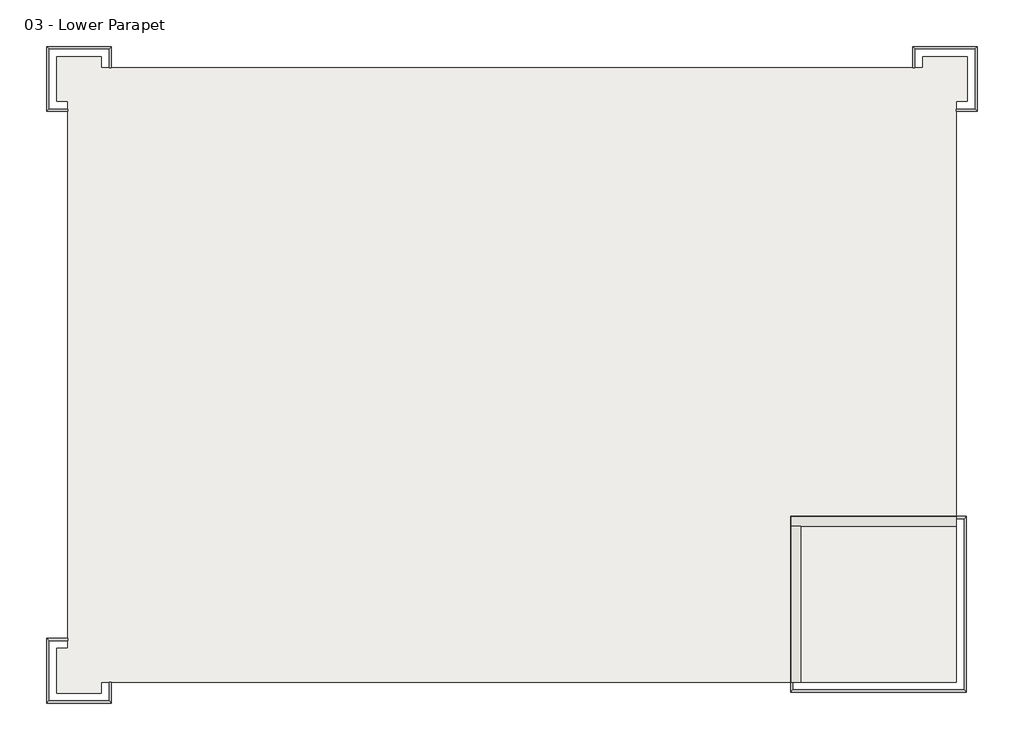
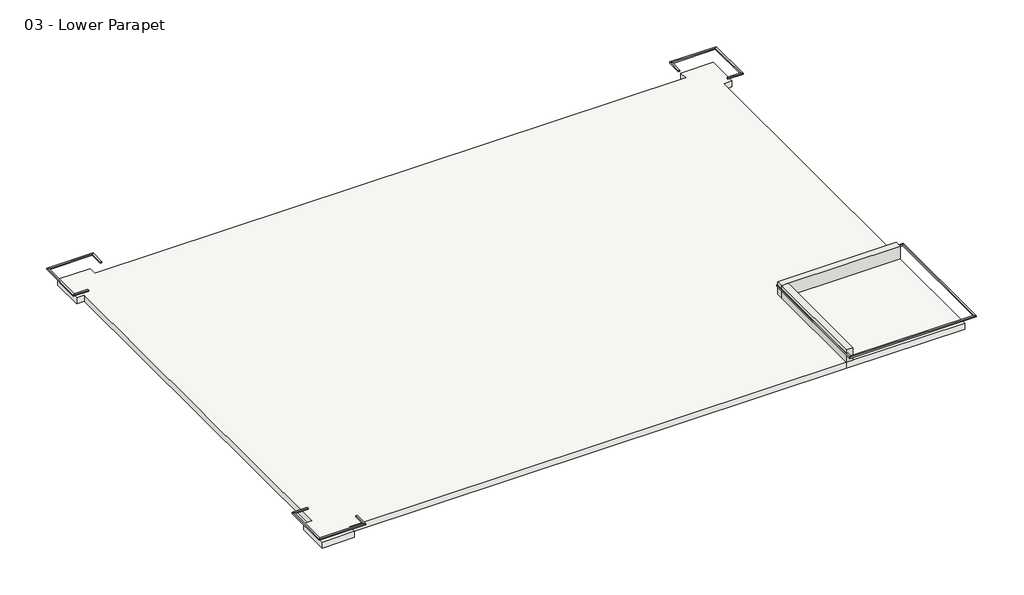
# One storey: 16 proxies, 2 walls, 1 roof.
"""IFC4 building model written with IfcOpenShell, lengths in millimetres."""

import ifcopenshell
import ifcopenshell.guid

model = None  # the IFC model being written
_history = None  # IfcOwnerHistory: only IFC2X3 demands one
_inside = {}  # id of a spatial element -> (the spatial element, [elements in it])
_under = {}  # id of a project, library or spatial element -> (it, [spatial elements below it])
_declared = {}  # id of a project -> (the project, [libraries it declares])
_typed = {}  # id of a type object -> (the type object, [elements of that type])
_made_of = {}  # id of a material, layer set ... -> (it, [elements and type objects made of it])


def new_model(schema):
    """Start an empty IFC model of exactly this schema.

    Asked for "IFC4X3", IfcOpenShell would pick the latest addendum, in which some entities
    have other attributes; the version numbers below select the first issue.
    IFC2X3 requires an IfcOwnerHistory on every rooted entity: one is made here for all.
    """
    global model, _history
    if schema == "IFC4X3":
        model = ifcopenshell.file(schema_version=(4, 3, 0, 0))
    else:
        model = ifcopenshell.file(schema=schema)
    _inside.clear()
    _under.clear()
    _declared.clear()
    _typed.clear()
    _made_of.clear()
    _history = None
    if model.schema == "IFC2X3":
        org = make("IfcOrganization", Name="unknown")
        user = make(
            "IfcPersonAndOrganization",
            ThePerson=make("IfcPerson", FamilyName="unknown"),
            TheOrganization=org,
        )
        app = make(
            "IfcApplication",
            ApplicationDeveloper=org,
            Version="unknown",
            ApplicationFullName="unknown",
            ApplicationIdentifier="unknown",
        )
        _history = make(
            "IfcOwnerHistory",
            OwningUser=user,
            OwningApplication=app,
            ChangeAction="ADDED",
            CreationDate=0,
        )
    return model


def make(cls, **values):
    """One entity of the class cls with the attributes given. An attribute that is None is left unset."""
    return model.create_entity(
        cls, **{name: value for name, value in values.items() if value is not None}
    )


def rooted(cls, **values):
    """An entity with a GlobalId (a new one), such as an element, a storey or a relation."""
    return make(cls, GlobalId=ifcopenshell.guid.new(), OwnerHistory=_history, **values)


def si_unit(unit_type, name, prefix=None):
    """IfcSIUnit, for example si_unit("LENGTHUNIT", "METRE", prefix="MILLI")."""
    return make("IfcSIUnit", UnitType=unit_type, Prefix=prefix, Name=name)


def assignment(units):
    """IfcUnitAssignment: the units of a project."""
    return None if units is None else make("IfcUnitAssignment", Units=units)


def point(xyz):
    """IfcCartesianPoint."""
    return None if xyz is None else make("IfcCartesianPoint", Coordinates=xyz)


def direction(xyz):
    """IfcDirection."""
    return None if xyz is None else make("IfcDirection", DirectionRatios=xyz)


def frame(location, z_axis=None, x_axis=None):
    """IfcAxis2Placement3D, a coordinate frame: its origin and axes. An axis left out is left unset."""
    return make(
        "IfcAxis2Placement3D",
        Location=point(location),
        Axis=direction(z_axis),
        RefDirection=direction(x_axis),
    )


def origin():
    """The frame at (0, 0, 0) with its axes left unset."""
    return frame((0.0, 0.0, 0.0))


def place(relative_to, where):
    """IfcLocalPlacement: puts the frame where relative to a parent placement (None: the world)."""
    return make(
        "IfcLocalPlacement", PlacementRelTo=relative_to, RelativePlacement=where
    )


def context(
    kind, dimensions, precision=None, world=None, true_north=None, identifier=None
):
    """IfcGeometricRepresentationContext, for example the 3D "Model" context."""
    return make(
        "IfcGeometricRepresentationContext",
        ContextIdentifier=identifier,
        ContextType=kind,
        CoordinateSpaceDimension=dimensions,
        Precision=precision,
        WorldCoordinateSystem=world,
        TrueNorth=true_north,
    )


def project(units=None, contexts=None):
    """IfcProject with its units and contexts."""
    return rooted(
        "IfcProject",
        Name="project",
        RepresentationContexts=contexts,
        UnitsInContext=assignment(units),
    )


def spatial(cls, under=None, at=None, **own):
    """A site, building, storey or space (cls), placed at a placement, below another one or the project."""
    s = rooted(cls, ObjectPlacement=at, **own)
    if under is not None:
        _under.setdefault(under.id(), (under, []))[1].append(s)
    return s


def polyline(points):
    """IfcPolyline through the points."""
    return make("IfcPolyline", Points=[point(p) for p in points])


def outline(outer, holes=None, kind="AREA"):
    """IfcArbitraryClosedProfileDef: a profile drawn as a closed curve; with holes, ...WithVoids."""
    if holes is None:
        return make("IfcArbitraryClosedProfileDef", ProfileType=kind, OuterCurve=outer)
    return make(
        "IfcArbitraryProfileDefWithVoids",
        ProfileType=kind,
        OuterCurve=outer,
        InnerCurves=holes,
    )


def extrude(swept, where, along, depth):
    """IfcExtrudedAreaSolid: the profile swept, set in the frame where, extruded along a direction by depth."""
    return make(
        "IfcExtrudedAreaSolid",
        SweptArea=swept,
        Position=where,
        ExtrudedDirection=direction(along),
        Depth=depth,
    )


def faces_of(points, faces, orient=None, outer=None):
    """IfcFace entities. A face is a list of loops; a loop is a list of indices into points, from 0.

    orient and outer hold one flag for each loop. By default every Orientation is true, the
    first loop of a face is its IfcFaceOuterBound and the others are IfcFaceBound.
    """
    made = []
    for i, loops in enumerate(faces):
        bounds = []
        for j, loop in enumerate(loops):
            is_outer = j == 0 if outer is None else outer[i][j]
            bounds.append(
                make(
                    "IfcFaceOuterBound" if is_outer else "IfcFaceBound",
                    Bound=make("IfcPolyLoop", Polygon=[points[k] for k in loop]),
                    Orientation=True if orient is None else orient[i][j],
                )
            )
        made.append(make("IfcFace", Bounds=bounds))
    return made


def faceted_brep(points, faces, orient=None, outer=None, voids=None):
    """IfcFacetedBrep: a solid bounded by flat faces; with voids (closed shells), ...WithVoids."""
    shared = [point(p) for p in points]
    hull = make("IfcClosedShell", CfsFaces=faces_of(shared, faces, orient, outer))
    if voids is None:
        return make("IfcFacetedBrep", Outer=hull)
    return make(
        "IfcFacetedBrepWithVoids",
        Outer=hull,
        Voids=[
            make(cls, CfsFaces=faces_of(shared, fs, o, b)) for cls, fs, o, b in voids
        ],
    )


def shape(context_of_items, identifier, shape_type, items):
    """IfcShapeRepresentation: the items that make up one representation, for example the "Body"."""
    return make(
        "IfcShapeRepresentation",
        ContextOfItems=context_of_items,
        RepresentationIdentifier=identifier,
        RepresentationType=shape_type,
        Items=items,
    )


def made_of(thing, what):
    """Note that an element or type object is made of a material, layer set ...; save() writes the relation."""
    if what is not None:
        _made_of.setdefault(what.id(), (what, []))[1].append(thing)
    return thing


def element(
    cls,
    number,
    at=None,
    inside=None,
    cuts=None,
    type_object=None,
    material=None,
    context=None,
    identifier="Body",
    shape_type=None,
    held_by="IfcProductDefinitionShape",
    body=None,
    shapes=None,
    **own,
):
    """One element of the class cls, such as IfcWall. Its Tag is "e" and its number.

    at: its placement. inside: the storey or other place that contains it. cuts: it is an
    opening in that element (IfcRelVoidsElement). A single representation is given by context,
    identifier, shape_type and body (its items); several are given by shapes. held_by: the class
    of the entity that holds the representations. save() writes the other relations.
    """
    e = rooted(cls, Tag="e%d" % number, ObjectPlacement=at, **own)
    if body is not None:
        shapes = [shape(context, identifier, shape_type, body)]
    if shapes is not None:
        e.Representation = make(held_by, Representations=shapes)
    if inside is not None:
        _inside.setdefault(inside.id(), (inside, []))[1].append(e)
    if cuts is not None:
        rooted(
            "IfcRelVoidsElement", RelatingBuildingElement=cuts, RelatedOpeningElement=e
        )
    if type_object is not None:
        _typed.setdefault(type_object.id(), (type_object, []))[1].append(e)
    return made_of(e, material)


def aggregate(whole, parts):
    """IfcRelAggregates: a whole, such as a stair, and the parts it consists of."""
    return rooted("IfcRelAggregates", RelatingObject=whole, RelatedObjects=parts)


def save(model, path):
    """Write the relations noted so far, then the file.

    IfcRelAggregates (storeys below a building ...), IfcRelContainedInSpatialStructure (elements
    in a storey), IfcRelDefinesByType, IfcRelAssociatesMaterial and IfcRelDeclares: one each for
    every whole, place, type object, material and project.
    """
    for whole, parts in _under.values():
        aggregate(whole, parts)
    for where, things in _inside.values():
        rooted(
            "IfcRelContainedInSpatialStructure",
            RelatedElements=things,
            RelatingStructure=where,
        )
    for kind, things in _typed.values():
        rooted("IfcRelDefinesByType", RelatedObjects=things, RelatingType=kind)
    for what, things in _made_of.values():
        rooted("IfcRelAssociatesMaterial", RelatedObjects=things, RelatingMaterial=what)
    for by, libraries in _declared.values():
        rooted("IfcRelDeclares", RelatingContext=by, RelatedDefinitions=libraries)
    model.write(path)


model = new_model("IFC4")

# Units and contexts
model_context = context("Model", 3, world=origin())
ifc_project = project(units=[si_unit("LENGTHUNIT", "METRE", prefix="MILLI")], contexts=[model_context])

# Site, building, storey
site = spatial("IfcSite", under=ifc_project)
building = spatial("IfcBuilding", under=site)
storey = spatial("IfcBuildingStorey", under=building, Name="03 - Lower Parapet", Elevation=7500.0)

# Proxies
placement = place(None, origin())
element("IfcBuildingElementProxy", 1, Name="Reveals", at=placement, inside=storey, context=model_context, shape_type="SweptSolid", body=[
    extrude(outline(polyline([(-20106.4727721, -13977.9313057), (-20003.9727721, -13977.9313057), (-20003.9727721, -14934.2313057), (-20106.4727721, -14831.7313057), (-20106.4727721, -13977.9313057)])), frame((0.0, 0.0, 7700.0), z_axis=(0.0, 0.0, 1.0), x_axis=(1.0, 0.0, 0.0)), (0.0, 0.0, 1.0), 75.0),
])
element("IfcBuildingElementProxy", 2, Name="Reveals", at=placement, inside=storey, context=model_context, shape_type="SweptSolid", body=[
    extrude(outline(polyline([(-20106.4727721, -14831.7313057), (-20003.9727721, -14934.2313057), (-22946.9727721, -14934.2313057), (-22844.4727721, -14831.7313057), (-20106.4727721, -14831.7313057)])), frame((0.0, 0.0, 7700.0), z_axis=(0.0, 0.0, 1.0), x_axis=(1.0, 0.0, 0.0)), (0.0, 0.0, 1.0), 75.0),
])
element("IfcBuildingElementProxy", 3, Name="Reveals", at=placement, inside=storey, context=model_context, shape_type="SweptSolid", body=[
    extrude(outline(polyline([(-22844.4727721, -14831.7313057), (-22946.9727721, -14934.2313057), (-22946.9727721, -11991.2313057), (-22844.4727721, -12093.7313057), (-22844.4727721, -14831.7313057)])), frame((0.0, 0.0, 7700.0), z_axis=(0.0, 0.0, 1.0), x_axis=(1.0, 0.0, 0.0)), (0.0, 0.0, 1.0), 75.0),
])
element("IfcBuildingElementProxy", 4, Name="Reveals", at=placement, inside=storey, context=model_context, shape_type="SweptSolid", body=[
    extrude(outline(polyline([(-22844.4727721, -12093.7313057), (-22946.9727721, -11991.2313057), (-21990.4727721, -11991.2313057), (-21990.4727721, -12093.7313057), (-22844.4727721, -12093.7313057)])), frame((0.0, 0.0, 7700.0), z_axis=(0.0, 0.0, 1.0), x_axis=(1.0, 0.0, 0.0)), (0.0, 0.0, 1.0), 75.0),
])
element("IfcBuildingElementProxy", 5, Name="Reveals", at=placement, inside=storey, context=model_context, shape_type="SweptSolid", body=[
    extrude(outline(polyline([(-21990.4727721, 12030.0686943), (-21990.4727721, 11927.5686943), (-22946.9727721, 11927.5686943), (-22844.4727721, 12030.0686943), (-21990.4727721, 12030.0686943)])), frame((0.0, 0.0, 7700.0), z_axis=(0.0, 0.0, 1.0), x_axis=(1.0, 0.0, 0.0)), (0.0, 0.0, 1.0), 75.0),
])
element("IfcBuildingElementProxy", 6, Name="Reveals", at=placement, inside=storey, context=model_context, shape_type="SweptSolid", body=[
    extrude(outline(polyline([(-22844.4727721, 12030.0686943), (-22946.9727721, 11927.5686943), (-22946.9727721, 14870.5686943), (-22844.4727721, 14768.0686943), (-22844.4727721, 12030.0686943)])), frame((0.0, 0.0, 7700.0), z_axis=(0.0, 0.0, 1.0), x_axis=(1.0, 0.0, 0.0)), (0.0, 0.0, 1.0), 75.0),
])
element("IfcBuildingElementProxy", 7, Name="Reveals", at=placement, inside=storey, context=model_context, shape_type="SweptSolid", body=[
    extrude(outline(polyline([(-22844.4727721, 14768.0686943), (-22946.9727721, 14870.5686943), (-20003.9727721, 14870.5686943), (-20106.4727721, 14768.0686943), (-22844.4727721, 14768.0686943)])), frame((0.0, 0.0, 7700.0), z_axis=(0.0, 0.0, 1.0), x_axis=(1.0, 0.0, 0.0)), (0.0, 0.0, 1.0), 75.0),
])
element("IfcBuildingElementProxy", 8, Name="Reveals", at=placement, inside=storey, context=model_context, shape_type="SweptSolid", body=[
    extrude(outline(polyline([(-20106.4727721, 14768.0686943), (-20003.9727721, 14870.5686943), (-20003.9727721, 13914.0686943), (-20106.4727721, 13914.0686943), (-20106.4727721, 14768.0686943)])), frame((0.0, 0.0, 7700.0), z_axis=(0.0, 0.0, 1.0), x_axis=(1.0, 0.0, 0.0)), (0.0, 0.0, 1.0), 75.0),
])
element("IfcBuildingElementProxy", 9, Name="Reveals", at=placement, inside=storey, context=model_context, shape_type="SweptSolid", body=[
    extrude(outline(polyline([(16467.5272279, 13914.0686943), (16365.0272279, 13914.0686943), (16365.0272279, 14870.5686943), (16467.5272279, 14768.0686943), (16467.5272279, 13914.0686943)])), frame((0.0, 0.0, 7700.0), z_axis=(0.0, 0.0, 1.0), x_axis=(1.0, 0.0, 0.0)), (0.0, 0.0, 1.0), 75.0),
])
element("IfcBuildingElementProxy", 10, Name="Reveals", at=placement, inside=storey, context=model_context, shape_type="SweptSolid", body=[
    extrude(outline(polyline([(16467.5272279, 14768.0686943), (16365.0272279, 14870.5686943), (19308.0272279, 14870.5686943), (19205.5272279, 14768.0686943), (16467.5272279, 14768.0686943)])), frame((0.0, 0.0, 7700.0), z_axis=(0.0, 0.0, 1.0), x_axis=(1.0, 0.0, 0.0)), (0.0, 0.0, 1.0), 75.0),
])
element("IfcBuildingElementProxy", 11, Name="Reveals", at=placement, inside=storey, context=model_context, shape_type="SweptSolid", body=[
    extrude(outline(polyline([(19205.5272279, 14768.0686943), (19308.0272279, 14870.5686943), (19308.0272279, 11927.5686943), (19205.5272279, 12030.0686943), (19205.5272279, 14768.0686943)])), frame((0.0, 0.0, 7700.0), z_axis=(0.0, 0.0, 1.0), x_axis=(1.0, 0.0, 0.0)), (0.0, 0.0, 1.0), 75.0),
])
element("IfcBuildingElementProxy", 12, Name="Reveals", at=placement, inside=storey, context=model_context, shape_type="SweptSolid", body=[
    extrude(outline(polyline([(19205.5272279, 12030.0686943), (19308.0272279, 11927.5686943), (18351.5272279, 11927.5686943), (18351.5272279, 12030.0686943), (19205.5272279, 12030.0686943)])), frame((0.0, 0.0, 7700.0), z_axis=(0.0, 0.0, 1.0), x_axis=(1.0, 0.0, 0.0)), (0.0, 0.0, 1.0), 75.0),
])
element("IfcBuildingElementProxy", 13, Name="Reveals", at=placement, inside=storey, context=model_context, shape_type="SweptSolid", body=[
    extrude(outline(polyline([(18705.5272279, -6556.9313057), (18808.0272279, -6454.4313057), (18808.0272279, -14434.4313057), (18705.5272279, -14331.9313057), (18705.5272279, -6556.9313057)])), frame((0.0, 0.0, 7700.0), z_axis=(0.0, 0.0, 1.0), x_axis=(1.0, 0.0, 0.0)), (0.0, 0.0, 1.0), 75.0),
])
element("IfcBuildingElementProxy", 14, Name="Reveals", at=placement, inside=storey, context=model_context, shape_type="SweptSolid", body=[
    extrude(outline(polyline([(18705.5272279, -14331.9313057), (18808.0272279, -14434.4313057), (10828.0272279, -14434.4313057), (10930.5272279, -14331.9313057), (18705.5272279, -14331.9313057)])), frame((0.0, 0.0, 7700.0), z_axis=(0.0, 0.0, 1.0), x_axis=(1.0, 0.0, 0.0)), (0.0, 0.0, 1.0), 75.0),
])
element("IfcBuildingElementProxy", 15, Name="Reveals", at=placement, inside=storey, context=model_context, shape_type="SweptSolid", body=[
    extrude(outline(polyline([(18808.0272279, -6454.4313057), (18705.5272279, -6556.9313057), (10930.5272279, -6556.9313057), (10828.0272279, -6454.4313057), (18808.0272279, -6454.4313057)])), frame((0.0, 0.0, 7700.0), z_axis=(0.0, 0.0, 1.0), x_axis=(1.0, 0.0, 0.0)), (0.0, 0.0, 1.0), 75.0),
])
element("IfcBuildingElementProxy", 16, Name="Reveals", at=placement, inside=storey, context=model_context, shape_type="SweptSolid", body=[
    extrude(outline(polyline([(10828.0272279, -6454.4313057), (10930.5272279, -6556.9313057), (10930.5272279, -14331.9313057), (10828.0272279, -14434.4313057), (10828.0272279, -6454.4313057)])), frame((0.0, 0.0, 7700.0), z_axis=(0.0, 0.0, 1.0), x_axis=(1.0, 0.0, 0.0)), (0.0, 0.0, 1.0), 75.0),
])

# Roof
element("IfcRoof", 17, ObjectType="Generic - 400mm", at=placement, inside=storey, context=model_context, shape_type="SweptSolid", body=[
    extrude(outline(polyline([(-20460.4727721, 13914.0686943), (16821.5272279, 13914.0686943), (16821.5272279, 14414.0686943), (18851.5272279, 14414.0686943), (18851.5272279, 12384.0686943), (18351.5272279, 12384.0686943), (18351.5272279, -6481.9313057), (18351.5272279, -13977.9313057), (10855.5272279, -13977.9313057), (-20460.4727721, -13977.9313057), (-20460.4727721, -14477.7313057), (-22490.4727721, -14477.7313057), (-22490.4727721, -12447.7313057), (-21990.4727721, -12447.7313057), (-21990.4727721, 12384.0686943), (-22490.4727721, 12384.0686943), (-22490.4727721, 14414.0686943), (-20460.4727721, 14414.0686943), (-20460.4727721, 13914.0686943)])), frame((0.0, 0.0, 6750.0), z_axis=(0.0, 0.0, 1.0), x_axis=(1.0, 0.0, 0.0)), (0.0, 0.0, 1.0), 400.0),
])

# Walls
element("IfcWall", 18, ObjectType="Exterior - Render on Brick on Block @ Entry", at=placement, inside=storey, context=model_context, shape_type="Brep", body=[
    faceted_brep([(10855.5272279, -6481.9313057, 8000.0), (18351.5272279, -6481.9313057, 8000.0), (18351.5272279, -6481.9313057, 7775.0), (10855.5272279, -6481.9313057, 7775.0), (18351.5272279, -6481.9313057, 7150.0), (10855.5272279, -6481.9313057, 7150.0), (10855.5272279, -6481.9313057, 7700.0), (18351.5272279, -6481.9313057, 7700.0), (18351.5272279, -6481.9313057, 7500.0), (18351.5272279, -6910.9313057, 8000.0), (11284.5272279, -6910.9313057, 8000.0), (10855.5272279, -6910.9313057, 8000.0), (10855.5272279, -6910.9313057, 7775.0), (10930.5272279, -6910.9313057, 7775.0), (10930.5272279, -6910.9313057, 7700.0), (10855.5272279, -6910.9313057, 7700.0), (10855.5272279, -6910.9313057, 7150.0), (11284.5272279, -6910.9313057, 7150.0), (18351.5272279, -6910.9313057, 7150.0), (10930.5272279, -6556.9313057, 7700.0), (10930.5272279, -6556.9313057, 7775.0), (18351.5272279, -6556.9313057, 7775.0), (18351.5272279, -6556.9313057, 7700.0)], [[[0, 1, 2, 3]], [[4, 5, 6, 7, 8]], [[9, 10, 11, 12, 13, 14, 15, 16, 17, 18]], [[1, 0, 11, 10, 9]], [[19, 20, 21, 22]], [[14, 19, 22, 7, 6, 15]], [[21, 20, 13, 12, 3, 2]], [[11, 0, 3, 12]], [[5, 16, 15, 6]], [[20, 19, 14, 13]], [[1, 9, 18, 4, 8, 7, 22, 21, 2]], [[5, 4, 18, 17, 16]]]),
])
element("IfcWall", 19, ObjectType="Exterior - Render on Brick on Block @ Entry", at=placement, inside=storey, context=model_context, shape_type="Brep", body=[
    faceted_brep([(10855.5272279, -13977.9313057, 8000.0), (10855.5272279, -6910.9313057, 8000.0), (10855.5272279, -6910.9313057, 7775.0), (10855.5272279, -13977.9313057, 7775.0), (10855.5272279, -6910.9313057, 7150.0), (10855.5272279, -13977.9313057, 7150.0), (10855.5272279, -13977.9313057, 7500.0), (10855.5272279, -13977.9313057, 7700.0), (10855.5272279, -6910.9313057, 7700.0), (11284.5272279, -6910.9313057, 8000.0), (11284.5272279, -13977.9313057, 8000.0), (11284.5272279, -13977.9313057, 7150.0), (11284.5272279, -6910.9313057, 7150.0), (10930.5272279, -13977.9313057, 7775.0), (10930.5272279, -6910.9313057, 7775.0), (10930.5272279, -6910.9313057, 7700.0), (10930.5272279, -13977.9313057, 7700.0)], [[[0, 1, 2, 3]], [[4, 5, 6, 7, 8]], [[9, 10, 11, 12]], [[1, 0, 10, 9]], [[13, 14, 15, 16]], [[1, 9, 12, 4, 8, 15, 14, 2]], [[16, 15, 8, 7]], [[14, 13, 3, 2]], [[11, 10, 0, 3, 13, 16, 7, 6, 5]], [[5, 4, 12, 11]]]),
])

save(model, "model.ifc")
